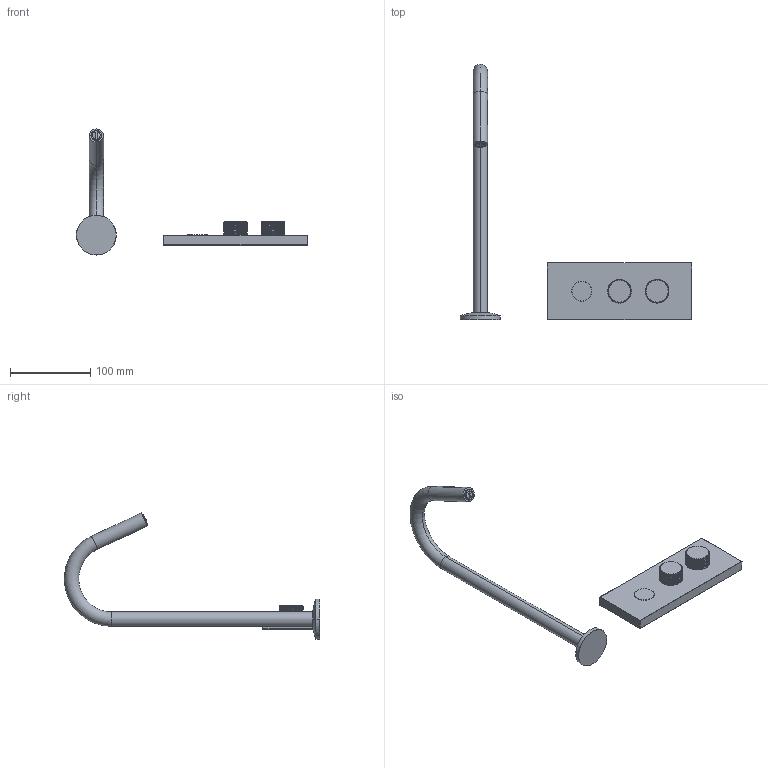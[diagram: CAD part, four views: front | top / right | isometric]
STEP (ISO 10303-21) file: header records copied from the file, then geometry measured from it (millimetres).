
FILE_DESCRIPTION((''),'2;1');
FILE_NAME('F5951C','2022-03-25T10:28:12',('fabriziov'),(''),'CREO PARAMETRIC BY PTC INC, 2021184','CREO PARAMETRIC BY PTC INC, 2021184','');
FILE_SCHEMA(('CONFIG_CONTROL_DESIGN'));
Products named in the file (1): F5951C
Bounding box: 288.4 x 318.43 x 157.34 mm (x, y, z)
Volume: 311811.9 mm3; surface area: 71400.7 mm2
Topology: 4 solids, 4 shells, 1364 faces, 3968 edges, 2616 vertices
Faces by surface type: cylinder 709, plane 503, torus 52, bspline 50, cone 32, sphere 18
Entity records: 58565 total; most frequent: CARTESIAN_POINT 24693, ORIENTED_EDGE 7928, DIRECTION 6086, EDGE_CURVE 3964, VERTEX_POINT 2616, AXIS2_PLACEMENT_3D 2326, B_SPLINE_CURVE_WITH_KNOTS 1518, VECTOR 1434
